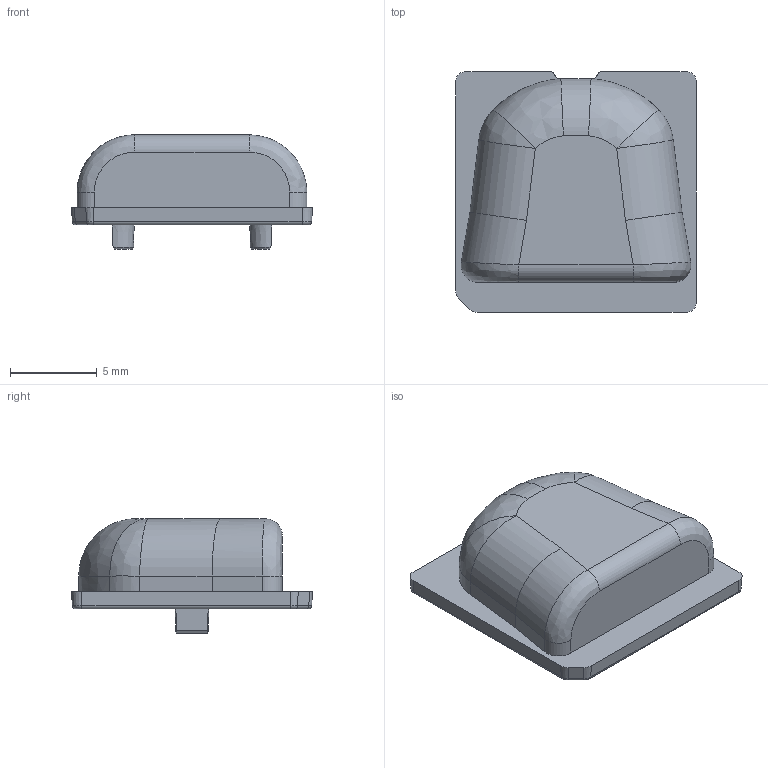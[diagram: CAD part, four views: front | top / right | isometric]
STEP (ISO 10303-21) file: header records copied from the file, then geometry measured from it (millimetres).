
FILE_DESCRIPTION(('CATIA V5 STEP Exchange'),'2;1');
FILE_NAME('D:\Stradella\C15917_Stradella-T4-B-mechanical_model.stp','2017-05-11T12:59:21+00:00',('none'),('none'),'CATIA Version 5-6 Release 2013 SP4','CATIA V5 STEP AP203','none');
FILE_SCHEMA(('CONFIG_CONTROL_DESIGN'));
Length unit declared in the file: millimetre
Products named in the file (1): C15917
Bounding box: 13.9 x 13.9 x 6.6 mm (x, y, z)
Volume: 582.5 mm3; surface area: 628.8 mm2
Topology: 1 solids, 1 shells, 254 faces, 688 edges, 445 vertices
Faces by surface type: plane 83, bspline 79, extrusion 46, cylinder 28, cone 9, torus 7, sphere 2
Entity records: 10875 total; most frequent: CARTESIAN_POINT 5504, ORIENTED_EDGE 1364, EDGE_CURVE 682, DIRECTION 598, VERTEX_POINT 443, B_SPLINE_CURVE_WITH_KNOTS 396, VECTOR 320, LINE 274
